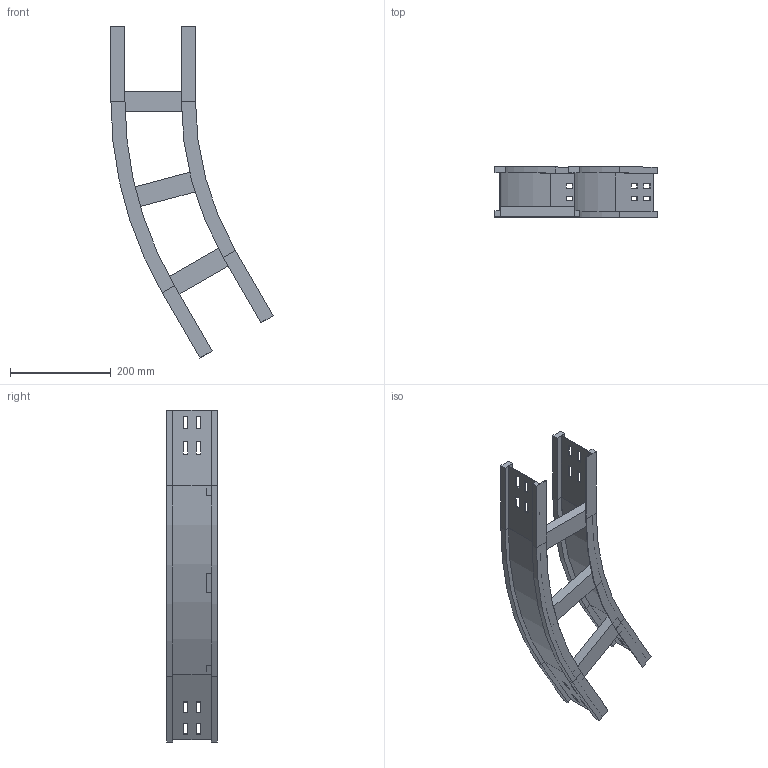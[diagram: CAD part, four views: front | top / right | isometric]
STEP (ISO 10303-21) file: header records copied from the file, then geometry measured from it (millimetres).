
FILE_DESCRIPTION (( 'STEP AP214' ), '1' );
FILE_NAME ('12S6D150.step', '2025-02-21T16:01:13', ( '' ), ( '' ), 'SwSTEP 2.0', 'SolidWorks 2023', '' );
FILE_SCHEMA (( 'AUTOMOTIVE_DESIGN' ));
Length unit declared in the file: millimetre
Products named in the file (4): LONGH.ESTERNO 30°_H100_R600+150; TRAVERSINO_150; LONGH.INTERNO30°_H100_R600; 12S6D150
Assembly tree (5 placements, depth 2):
  12S6D150
    LONGH.INTERNO30°_H100_R600
    LONGH.ESTERNO 30°_H100_R600+150
    TRAVERSINO_150  x3
Bounding box: 322.18 x 100 x 659.4 mm (x, y, z)
Volume: 1044771.6 mm3; surface area: 442910.9 mm2
Topology: 5 solids, 5 shells, 158 faces, 396 edges, 248 vertices
Faces by surface type: plane 146, cylinder 12
Entity records: 4477 total; most frequent: CARTESIAN_POINT 758, ORIENTED_EDGE 744, DIRECTION 704, EDGE_CURVE 372, LINE 348, VECTOR 348, VERTEX_POINT 232, EDGE_LOOP 178
